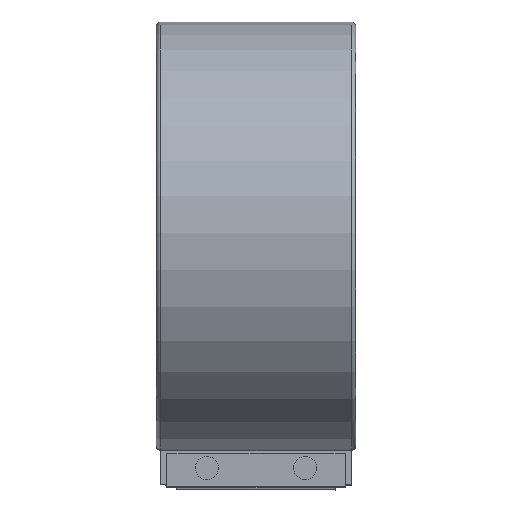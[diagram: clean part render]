
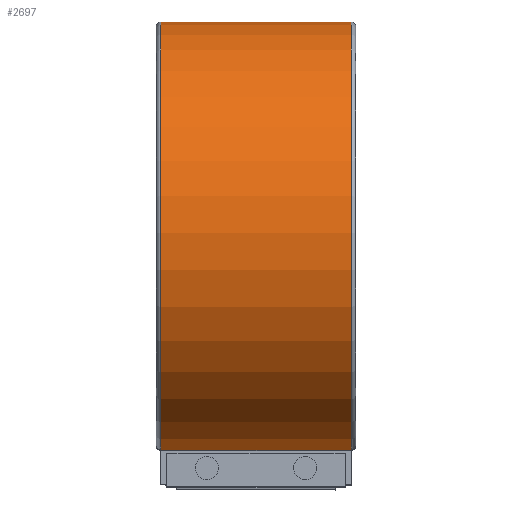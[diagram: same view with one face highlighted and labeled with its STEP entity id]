
A CAD part, top view. The second image highlights one B-rep face of the part: STEP entity #2697.
In plain terms, the highlighted cylindrical face has radius 75 mm (diameter 150 mm), a partial arc.
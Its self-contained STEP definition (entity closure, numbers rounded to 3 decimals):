
#60=CYLINDRICAL_SURFACE('',#2948,75.);
#223=CIRCLE('',#2949,75.);
#224=CIRCLE('',#2950,75.);
#225=CIRCLE('',#2951,75.);
#226=CIRCLE('',#2952,75.);
#227=CIRCLE('',#2953,75.);
#228=CIRCLE('',#2954,75.);
#377=FACE_OUTER_BOUND('',#597,.T.);
#597=EDGE_LOOP('',(#2083,#2084,#2085,#2086,#2087,#2088,#2089,#2090));
#796=LINE('',#4396,#1006);
#800=LINE('',#4426,#1010);
#1006=VECTOR('',#3535,66.);
#1010=VECTOR('',#3575,66.);
#1235=VERTEX_POINT('',#4393);
#1236=VERTEX_POINT('',#4395);
#1239=VERTEX_POINT('',#4415);
#1240=VERTEX_POINT('',#4416);
#1241=VERTEX_POINT('',#4419);
#1242=VERTEX_POINT('',#4421);
#1243=VERTEX_POINT('',#4423);
#1244=VERTEX_POINT('',#4425);
#1519=EDGE_CURVE('',#1235,#1236,#796,.T.);
#1532=EDGE_CURVE('',#1239,#1240,#223,.T.);
#1533=EDGE_CURVE('',#1236,#1239,#224,.T.);
#1534=EDGE_CURVE('',#1235,#1241,#225,.T.);
#1535=EDGE_CURVE('',#1241,#1242,#226,.T.);
#1536=EDGE_CURVE('',#1242,#1243,#227,.T.);
#1537=EDGE_CURVE('',#1244,#1243,#800,.T.);
#1538=EDGE_CURVE('',#1240,#1244,#228,.T.);
#2083=ORIENTED_EDGE('',*,*,#1532,.F.);
#2084=ORIENTED_EDGE('',*,*,#1533,.F.);
#2085=ORIENTED_EDGE('',*,*,#1519,.F.);
#2086=ORIENTED_EDGE('',*,*,#1534,.T.);
#2087=ORIENTED_EDGE('',*,*,#1535,.T.);
#2088=ORIENTED_EDGE('',*,*,#1536,.T.);
#2089=ORIENTED_EDGE('',*,*,#1537,.F.);
#2090=ORIENTED_EDGE('',*,*,#1538,.F.);
#2697=ADVANCED_FACE('',(#377),#60,.T.);
#2948=AXIS2_PLACEMENT_3D('',#4414,#3563,#3564);
#2949=AXIS2_PLACEMENT_3D('',#4417,#3565,#3566);
#2950=AXIS2_PLACEMENT_3D('',#4418,#3567,#3568);
#2951=AXIS2_PLACEMENT_3D('',#4420,#3569,#3570);
#2952=AXIS2_PLACEMENT_3D('',#4422,#3571,#3572);
#2953=AXIS2_PLACEMENT_3D('',#4424,#3573,#3574);
#2954=AXIS2_PLACEMENT_3D('',#4427,#3576,#3577);
#3535=DIRECTION('',(-1.,0.,0.));
#3563=DIRECTION('center_axis',(-1.,0.,0.));
#3564=DIRECTION('ref_axis',(0.,-0.977,0.212));
#3565=DIRECTION('center_axis',(-1.,0.,0.));
#3566=DIRECTION('ref_axis',(0.,-0.976,0.216));
#3567=DIRECTION('center_axis',(-1.,0.,0.));
#3568=DIRECTION('ref_axis',(0.,-0.977,0.212));
#3569=DIRECTION('center_axis',(-1.,0.,0.));
#3570=DIRECTION('ref_axis',(0.,-0.977,0.212));
#3571=DIRECTION('center_axis',(-1.,0.,0.));
#3572=DIRECTION('ref_axis',(0.,1.,0.));
#3573=DIRECTION('center_axis',(-1.,0.,0.));
#3574=DIRECTION('ref_axis',(0.,-0.977,0.212));
#3575=DIRECTION('',(1.,0.,0.));
#3576=DIRECTION('center_axis',(-1.,0.,0.));
#3577=DIRECTION('ref_axis',(0.,-0.977,0.212));
#4393=CARTESIAN_POINT('',(33.,-73.294,15.908));
#4395=CARTESIAN_POINT('',(-33.,-73.294,15.908));
#4396=CARTESIAN_POINT('',(33.,-73.294,15.908));
#4414=CARTESIAN_POINT('Origin',(0.511,0.,
0.));
#4415=CARTESIAN_POINT('',(-33.,-73.222,16.233));
#4416=CARTESIAN_POINT('',(-33.,-73.222,-16.233));
#4417=CARTESIAN_POINT('Origin',(-33.,0.,
0.));
#4418=CARTESIAN_POINT('Origin',(-33.,0.,
0.));
#4419=CARTESIAN_POINT('',(33.,-73.222,16.233));
#4420=CARTESIAN_POINT('Origin',(33.,0.,
0.));
#4421=CARTESIAN_POINT('',(33.,-73.222,-16.233));
#4422=CARTESIAN_POINT('Origin',(33.,0.,
0.));
#4423=CARTESIAN_POINT('',(33.,-73.294,-15.908));
#4424=CARTESIAN_POINT('Origin',(33.,0.,
0.));
#4425=CARTESIAN_POINT('',(-33.,-73.294,-15.908));
#4426=CARTESIAN_POINT('',(-33.,-73.294,-15.908));
#4427=CARTESIAN_POINT('Origin',(-33.,0.,
0.));
